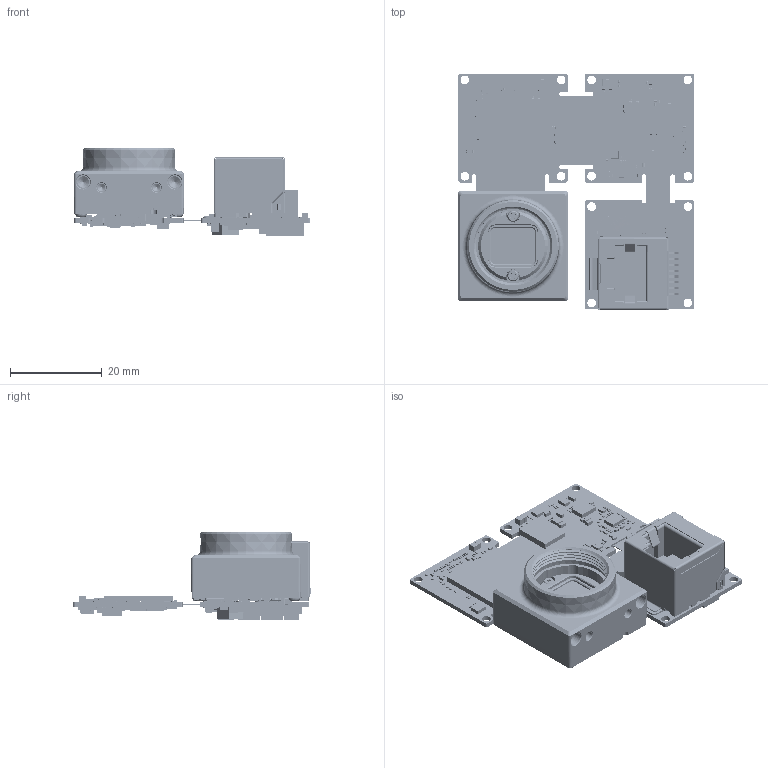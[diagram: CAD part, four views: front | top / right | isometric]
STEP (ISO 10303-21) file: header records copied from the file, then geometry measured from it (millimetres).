
FILE_DESCRIPTION (( 'STEP AP203' ), '1' );
FILE_NAME ('153-956-B_PHX24 NF-MOUNT_OPEN.STEP', '2018-10-22T18:16:03', ( '' ), ( '' ), 'SwSTEP 2.0', 'SolidWorks 2017', '' );
FILE_SCHEMA (( 'CONFIG_CONTROL_DESIGN' ));
Products named in the file (1): 153-956-B_PHX24 NF-MOUNT_OPEN
Bounding box: 51.61 x 51.7 x 19.33 mm (x, y, z)
Surface area: 17648.9 mm2 (no closed solid volume)
Topology: 0 solids, 653 shells, 22274 faces, 52279 edges, 27685 vertices
Faces by surface type: plane 9507, cylinder 8289, bspline 4341, cone 102, torus 33, sphere 2
Full cylindrical faces by diameter (mm): 0.099 x1, 0.177 x1, 0.206 x2, 1 x2, 1.05 x1, 1.1 x2, 1.2 x1, 1.35 x6, 1.5 x2, 1.6 x4, 1.7 x10, 1.8 x4, 1.9 x16, 2 x4, 2.5 x4, 3 x4, 17.05 x1
Entity records: 638636 total; most frequent: CARTESIAN_POINT 167989, DIRECTION 99393, ORIENTED_EDGE 95704, EDGE_CURVE 47854, AXIS2_PLACEMENT_3D 34373, VECTOR 30647, LINE 30647, VERTEX_POINT 27645
